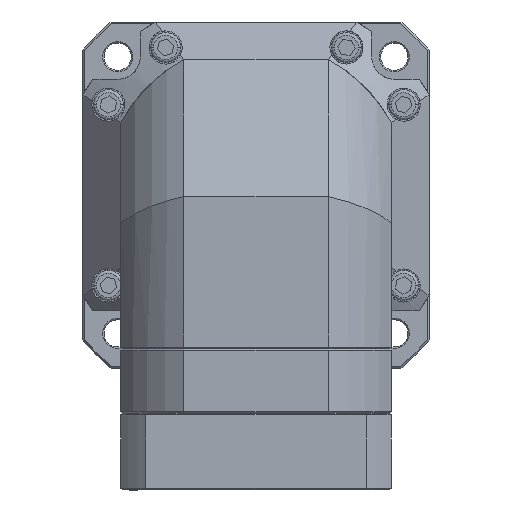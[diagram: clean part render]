
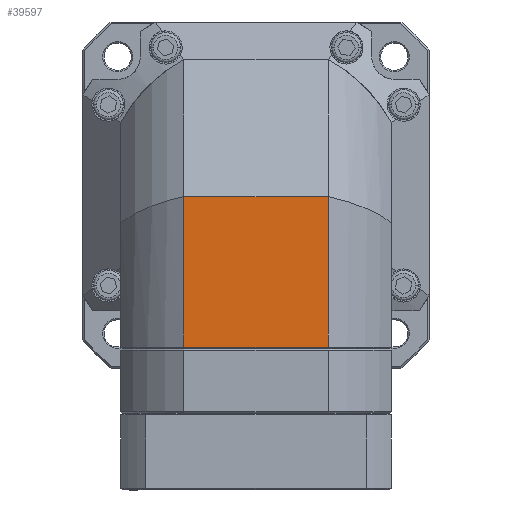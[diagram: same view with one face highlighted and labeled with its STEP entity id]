
A CAD part, front view. The second image highlights one B-rep face of the part: STEP entity #39597.
In plain terms, the highlighted planar face has unit normal (0, 1, 0).
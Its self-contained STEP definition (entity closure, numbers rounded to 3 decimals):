
#1474 = EDGE_CURVE ( 'NONE', #79033, #1883, #67404, .T. ) ;
#1883 = VERTEX_POINT ( 'NONE', #54870 ) ;
#14587 = CARTESIAN_POINT ( 'NONE',  ( -24., -178.611, -50.5 ) ) ;
#15374 = CARTESIAN_POINT ( 'NONE',  ( 24., -178.611, -25.35 ) ) ;
#15393 = CARTESIAN_POINT ( 'NONE',  ( 0., -178.611, -50.5 ) ) ;
#19441 = ORIENTED_EDGE ( 'NONE', *, *, #86779, .F. ) ;
#21322 = EDGE_LOOP ( 'NONE', ( #86161, #19441, #96332, #77539 ) ) ;
#22426 = DIRECTION ( 'NONE',  ( 1., 0., 0. ) ) ;
#24836 = AXIS2_PLACEMENT_3D ( 'NONE', #14587, #69009, #22426 ) ;
#25915 = LINE ( 'NONE', #15374, #64822 ) ;
#28256 = VERTEX_POINT ( 'NONE', #48142 ) ;
#34453 = CARTESIAN_POINT ( 'NONE',  ( 24., -178.611, -50.5 ) ) ;
#37956 = VECTOR ( 'NONE', #98375, 1000. ) ;
#38564 = DIRECTION ( 'NONE',  ( 1., 0., 0. ) ) ;
#39597 = ADVANCED_FACE ( 'NONE', ( #50001 ), #84297, .F. ) ;
#44428 = EDGE_CURVE ( 'NONE', #28256, #79033, #58579, .T. ) ;
#47249 = LINE ( 'NONE', #15393, #65445 ) ;
#48142 = CARTESIAN_POINT ( 'NONE',  ( -24., -178.611, -50.5 ) ) ;
#50001 = FACE_OUTER_BOUND ( 'NONE', #21322, .T. ) ;
#53190 = DIRECTION ( 'NONE',  ( 1., 0., 0. ) ) ;
#54283 = EDGE_CURVE ( 'NONE', #1883, #97192, #25915, .T. ) ;
#54870 = CARTESIAN_POINT ( 'NONE',  ( 24., -178.611, -0.5 ) ) ;
#58579 = LINE ( 'NONE', #90614, #37956 ) ;
#64822 = VECTOR ( 'NONE', #85428, 1000. ) ;
#65445 = VECTOR ( 'NONE', #38564, 1000. ) ;
#67404 = LINE ( 'NONE', #76297, #88011 ) ;
#69009 = DIRECTION ( 'NONE',  ( 0., -1., 0. ) ) ;
#71773 = CARTESIAN_POINT ( 'NONE',  ( -24., -178.611, -0.5 ) ) ;
#76297 = CARTESIAN_POINT ( 'NONE',  ( 0., -178.611, -0.5 ) ) ;
#77539 = ORIENTED_EDGE ( 'NONE', *, *, #1474, .T. ) ;
#79033 = VERTEX_POINT ( 'NONE', #71773 ) ;
#84297 = PLANE ( 'NONE',  #24836 ) ;
#85428 = DIRECTION ( 'NONE',  ( 0., 0., -1. ) ) ;
#86161 = ORIENTED_EDGE ( 'NONE', *, *, #54283, .T. ) ;
#86779 = EDGE_CURVE ( 'NONE', #28256, #97192, #47249, .T. ) ;
#88011 = VECTOR ( 'NONE', #53190, 1000. ) ;
#90614 = CARTESIAN_POINT ( 'NONE',  ( -24., -178.611, -25.35 ) ) ;
#96332 = ORIENTED_EDGE ( 'NONE', *, *, #44428, .T. ) ;
#97192 = VERTEX_POINT ( 'NONE', #34453 ) ;
#98375 = DIRECTION ( 'NONE',  ( 0., 0., 1. ) ) ;
